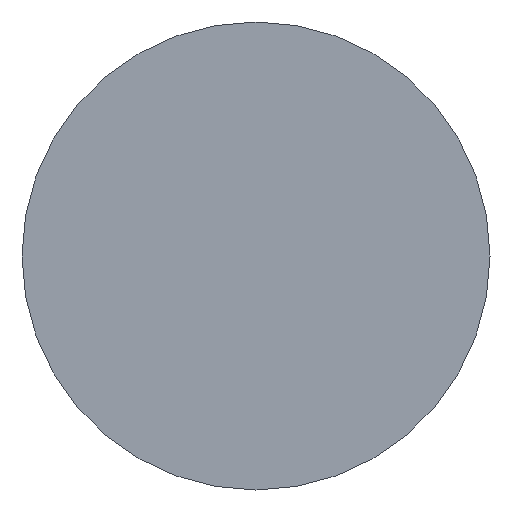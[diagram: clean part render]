
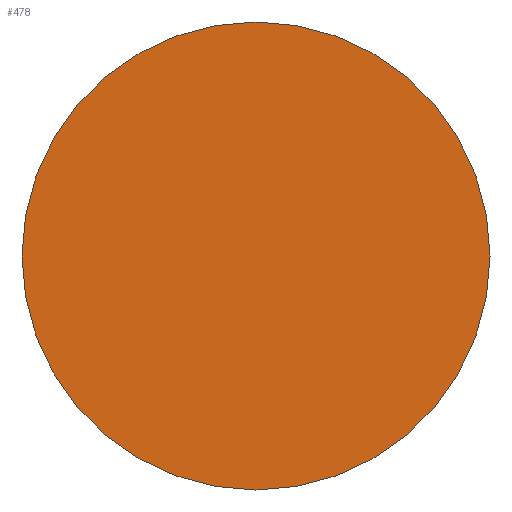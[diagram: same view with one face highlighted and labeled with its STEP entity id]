
A CAD part, front view. The second image highlights one B-rep face of the part: STEP entity #478.
In plain terms, the highlighted planar face has unit normal (0, -1, 0).
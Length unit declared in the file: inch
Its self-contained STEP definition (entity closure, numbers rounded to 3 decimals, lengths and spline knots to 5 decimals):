
#18 = CARTESIAN_POINT ( 'NONE',  ( 0., 0., 0.255 ) ) ;
#60 = AXIS2_PLACEMENT_3D ( 'NONE', #121, #374, #553 ) ;
#82 = PLANE ( 'NONE',  #60 ) ;
#111 = DIRECTION ( 'NONE',  ( 0., -1., 0. ) ) ;
#118 = FACE_OUTER_BOUND ( 'NONE', #200, .T. ) ;
#121 = CARTESIAN_POINT ( 'NONE',  ( -1.75, 0., 0.5 ) ) ;
#157 = ORIENTED_EDGE ( 'NONE', *, *, #353, .T. ) ;
#200 = EDGE_LOOP ( 'NONE', ( #500, #157 ) ) ;
#242 = CIRCLE ( 'NONE', #367, 1.75 ) ;
#266 = CIRCLE ( 'NONE', #395, 1.75 ) ;
#293 = CARTESIAN_POINT ( 'NONE',  ( 1.75, 0., 0.255 ) ) ;
#319 = VERTEX_POINT ( 'NONE', #404 ) ;
#353 = EDGE_CURVE ( 'NONE', #319, #403, #266, .T. ) ;
#367 = AXIS2_PLACEMENT_3D ( 'NONE', #465, #456, #388 ) ;
#374 = DIRECTION ( 'NONE',  ( 0., 1., 0. ) ) ;
#388 = DIRECTION ( 'NONE',  ( 1., 0., 0. ) ) ;
#395 = AXIS2_PLACEMENT_3D ( 'NONE', #18, #111, #541 ) ;
#403 = VERTEX_POINT ( 'NONE', #293 ) ;
#404 = CARTESIAN_POINT ( 'NONE',  ( -1.75, 0., 0.255 ) ) ;
#424 = EDGE_CURVE ( 'NONE', #403, #319, #242, .T. ) ;
#456 = DIRECTION ( 'NONE',  ( 0., -1., 0. ) ) ;
#465 = CARTESIAN_POINT ( 'NONE',  ( 0., 0., 0.255 ) ) ;
#478 = ADVANCED_FACE ( 'NONE', ( #118 ), #82, .F. ) ;
#500 = ORIENTED_EDGE ( 'NONE', *, *, #424, .T. ) ;
#541 = DIRECTION ( 'NONE',  ( 1., 0., 0. ) ) ;
#553 = DIRECTION ( 'NONE',  ( -1., 0., 0. ) ) ;
